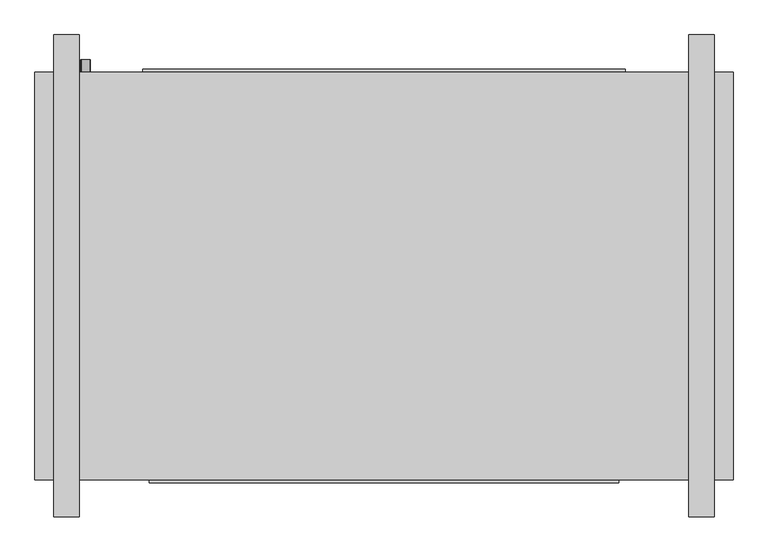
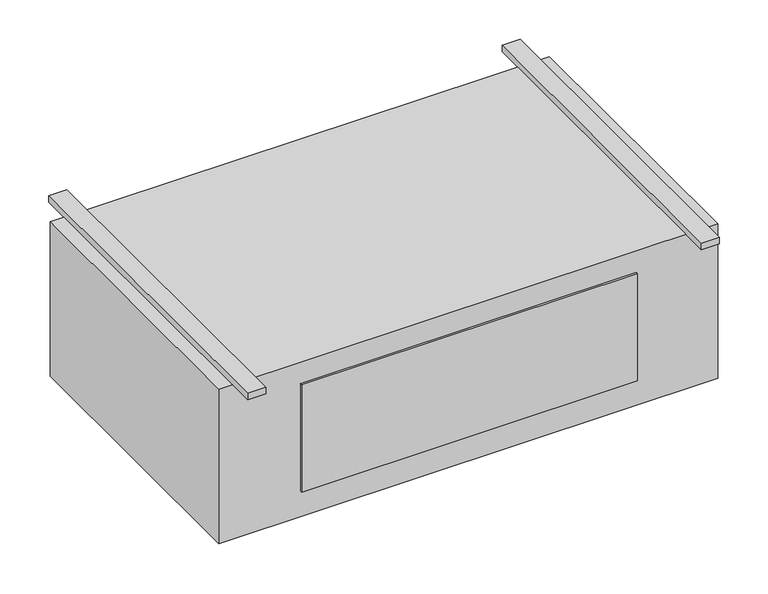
"""IFC4 building model written with IfcOpenShell, lengths in millimetres: proxy geometry, Exposed_High_Capacity_Horizontal_Cabinet_Fan_Coil_Unit_-_42DFA_-_CARRIER_-_4-Pipe_LH_2022 : Size 16 - 277v/60Hz/1Ph - 6/2 Coil."""

from ifc_helpers import new_model, si_unit, point, frame, frame_2d, origin, origin_with_axes, place, context, project, spatial, polyline, circle_curve, trimmed, segment, composite_curve, outline, extrude, source, transform, mapped, element, save


def mechanical_equipment_fb833bd3(model_context):
    return source(origin(), model_context, "Body", "SweptSolid", [
        extrude(outline(composite_curve([segment(trimmed(circle_curve(frame_2d((-406.4, -444.5)), 9.525), [point((-406.4, -454.025))], [point((-406.4, -434.975))], False, "CARTESIAN"), True, "CONTINUOUS"), segment(trimmed(circle_curve(frame_2d((-406.4, -444.5)), 9.525), [point((-406.4, -434.975))], [point((-406.4, -454.025))], False, "CARTESIAN"), True, "CONTINUOUS")], self_intersect=False)), frame((0.0, 169.8625, 0.0), z_axis=(0.0, 1.0, 0.0), x_axis=(0.0, 0.0, 1.0)), (0.0, 0.0, 1.0), 25.4),
        extrude(outline(composite_curve([segment(trimmed(circle_curve(frame_2d((-330.2, -444.5)), 7.9375), [point((-330.2, -452.4375))], [point((-330.2, -436.5625))], False, "CARTESIAN"), True, "CONTINUOUS"), segment(trimmed(circle_curve(frame_2d((-330.2, -444.5)), 7.9375), [point((-330.2, -436.5625))], [point((-330.2, -452.4375))], False, "CARTESIAN"), True, "CONTINUOUS")], self_intersect=False)), frame((0.0, 169.8625, 0.0), z_axis=(0.0, 1.0, 0.0), x_axis=(0.0, 0.0, 1.0)), (0.0, 0.0, 1.0), 25.4),
        extrude(outline(composite_curve([segment(trimmed(circle_curve(frame_2d((-254.0, -444.5)), 7.9375), [point((-254.0, -452.4375))], [point((-254.0, -436.5625))], False, "CARTESIAN"), True, "CONTINUOUS"), segment(trimmed(circle_curve(frame_2d((-254.0, -444.5)), 7.9375), [point((-254.0, -436.5625))], [point((-254.0, -452.4375))], False, "CARTESIAN"), True, "CONTINUOUS")], self_intersect=False)), frame((0.0, 169.8625, 0.0), z_axis=(0.0, 1.0, 0.0), x_axis=(0.0, 0.0, 1.0)), (0.0, 0.0, 1.0), 25.4),
        extrude(outline(composite_curve([segment(trimmed(circle_curve(frame_2d((-177.8, -444.5)), 7.9375), [point((-177.8, -452.4375))], [point((-177.8, -436.5625))], False, "CARTESIAN"), True, "CONTINUOUS"), segment(trimmed(circle_curve(frame_2d((-177.8, -444.5)), 7.9375), [point((-177.8, -436.5625))], [point((-177.8, -452.4375))], False, "CARTESIAN"), True, "CONTINUOUS")], self_intersect=False)), frame((0.0, 169.8625, 0.0), z_axis=(0.0, 1.0, 0.0), x_axis=(0.0, 0.0, 1.0)), (0.0, 0.0, 1.0), 25.4),
        extrude(outline(composite_curve([segment(trimmed(circle_curve(frame_2d((-101.6, -444.5)), 7.9375), [point((-101.6, -452.4375))], [point((-101.6, -436.5625))], False, "CARTESIAN"), True, "CONTINUOUS"), segment(trimmed(circle_curve(frame_2d((-101.6, -444.5)), 7.9375), [point((-101.6, -436.5625))], [point((-101.6, -452.4375))], False, "CARTESIAN"), True, "CONTINUOUS")], self_intersect=False)), frame((0.0, 169.8625, 0.0), z_axis=(0.0, 1.0, 0.0), x_axis=(0.0, 0.0, 1.0)), (0.0, 0.0, 1.0), 25.4),
        extrude(outline(polyline([(850.9, 169.8625), (850.9, -646.1125), (-546.1, -646.1125), (-546.1, 169.8625), (850.9, 169.8625)])), frame((0.0, 0.0, -457.2), z_axis=(0.0, 0.0, 1.0), x_axis=(1.0, 0.0, 0.0)), (0.0, 0.0, 1.0), 457.2),
        extrude(outline(polyline([(-330.2, 176.2125), (635.0, 176.2125), (635.0, 169.8625), (-330.2, 169.8625), (-330.2, 176.2125)])), frame((0.0, 0.0, -381.0), z_axis=(0.0, 0.0, 1.0), x_axis=(1.0, 0.0, 0.0)), (0.0, 0.0, 1.0), 355.6),
        extrude(outline(polyline([(-457.2, 244.475), (-457.2, -720.725), (-508.0, -720.725), (-508.0, 244.475), (-457.2, 244.475)])), origin_with_axes(), (0.0, 0.0, 1.0), 19.05),
        extrude(outline(polyline([(812.8, 244.475), (812.8, -720.725), (762.0, -720.725), (762.0, 244.475), (812.8, 244.475)])), origin_with_axes(), (0.0, 0.0, 1.0), 19.05),
        extrude(outline(polyline([(622.3, -652.4625), (-317.5, -652.4625), (-317.5, -646.1125), (622.3, -646.1125), (622.3, -652.4625)])), frame((0.0, 0.0, -381.0), z_axis=(0.0, 0.0, 1.0), x_axis=(1.0, 0.0, 0.0)), (0.0, 0.0, 1.0), 317.5),
    ])


if __name__ == "__main__":
    model = new_model("IFC4")
    model_context = context("Model", 3, world=origin())
    ifc_project = project(units=[si_unit("LENGTHUNIT", "METRE", prefix="MILLI")], contexts=[model_context])
    site = spatial("IfcSite", under=ifc_project)
    building = spatial("IfcBuilding", under=site)
    placement = place(None, origin())
    mechanical_equipment_shape = mechanical_equipment_fb833bd3(model_context)
    element("IfcBuildingElementProxy", 1, Name="Exposed_High_Capacity_Horizontal_Cabinet_Fan_Coil_Unit_-_42DFA_-_CARRIER_-_4-Pipe_LH_2022 : Size 16 - 277v/60Hz/1Ph - 6/2 Coil", ObjectType="Exposed_High_Capacity_Horizontal_Cabinet_Fan_Coil_Unit_-_42DFA_-_CARRIER_-_4-Pipe_LH_2022 : Size 16 - 277v/60Hz/1Ph - 6/2 Coil", at=placement, inside=building, context=model_context, shape_type="MappedRepresentation", body=[
        mapped(mechanical_equipment_shape, transform((0.0, 0.0, 0.0), x_axis=(1.0, 0.0, 0.0), y_axis=(0.0, 1.0, 0.0), z_axis=(0.0, 0.0, 1.0))),
    ])
    save(model, "model.ifc")
